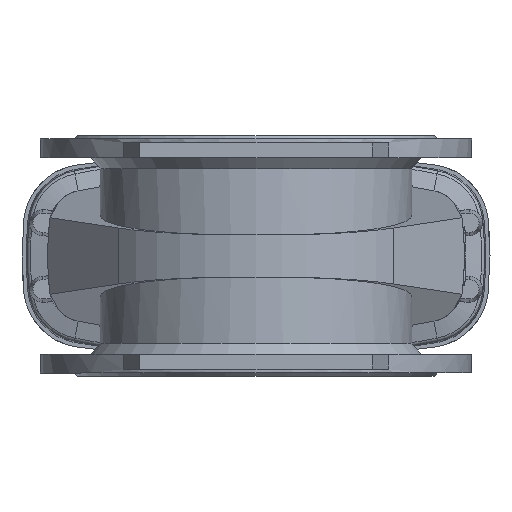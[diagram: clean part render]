
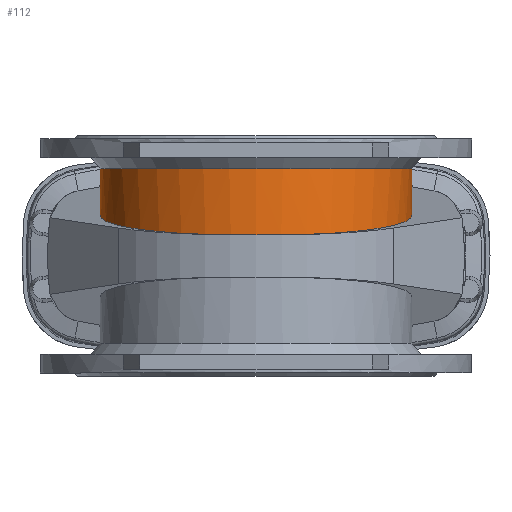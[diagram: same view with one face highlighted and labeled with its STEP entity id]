
A CAD part, front view. The second image highlights one B-rep face of the part: STEP entity #112.
In plain terms, the highlighted cylindrical face has radius 188 mm (diameter 376 mm), a partial arc.
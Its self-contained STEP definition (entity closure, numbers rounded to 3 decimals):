
#112 = ADVANCED_FACE ( 'NONE', ( #11789 ), #11799, .T. ) ;
#2651 = VERTEX_POINT ( 'NONE', #4843 ) ;
#2702 = VERTEX_POINT ( 'NONE', #3043 ) ;
#2712 = VERTEX_POINT ( 'NONE', #3053 ) ;
#2735 = VERTEX_POINT ( 'NONE', #3076 ) ;
#2736 = VERTEX_POINT ( 'NONE', #3077 ) ;
#3043 = CARTESIAN_POINT ( 'NONE',  ( -8., 187.83, 78.452 ) ) ;
#3053 = CARTESIAN_POINT ( 'NONE',  ( 0., -188., 25.774 ) ) ;
#3076 = CARTESIAN_POINT ( 'NONE',  ( 8., 187.83, 78.452 ) ) ;
#3077 = CARTESIAN_POINT ( 'NONE',  ( 8., 187.83, 105.391 ) ) ;
#4843 = CARTESIAN_POINT ( 'NONE',  ( -8., 187.83, 105.391 ) ) ;
#6612 =( BOUNDED_CURVE ( )  B_SPLINE_CURVE ( 3, ( #13349, #13350, #13356, #13357 ),
 .UNSPECIFIED., .F., .F. ) 
 B_SPLINE_CURVE_WITH_KNOTS ( ( 4, 4 ),
 ( 6.158, 9.257 ),
 .UNSPECIFIED. ) 
 CURVE ( )  GEOMETRIC_REPRESENTATION_ITEM ( )  RATIONAL_B_SPLINE_CURVE ( ( 1., 0.348, 0.348, 1. ) ) 
 REPRESENTATION_ITEM ( '' )  );
#6664 =( BOUNDED_CURVE ( )  B_SPLINE_CURVE ( 3, ( #13562, #13570, #13590, #13591 ),
 .UNSPECIFIED., .F., .F. ) 
 B_SPLINE_CURVE_WITH_KNOTS ( ( 4, 4 ),
 ( 6.158, 9.257 ),
 .UNSPECIFIED. ) 
 CURVE ( )  GEOMETRIC_REPRESENTATION_ITEM ( )  RATIONAL_B_SPLINE_CURVE ( ( 1., 0.348, 0.348, 1. ) ) 
 REPRESENTATION_ITEM ( '' )  );
#7694 = ORIENTED_EDGE ( 'NONE', *, *, #12592, .F. ) ;
#7697 = ORIENTED_EDGE ( 'NONE', *, *, #12541, .F. ) ;
#7706 = ORIENTED_EDGE ( 'NONE', *, *, #12542, .T. ) ;
#7730 = ORIENTED_EDGE ( 'NONE', *, *, #12569, .T. ) ;
#7732 = ORIENTED_EDGE ( 'NONE', *, *, #12579, .T. ) ;
#7921 = EDGE_LOOP ( 'NONE', ( #7730, #7732, #7694, #7706, #7697 ) ) ;
#8140 = AXIS2_PLACEMENT_3D ( 'NONE', #11252, #11251, #11247 ) ;
#11052 = AXIS2_PLACEMENT_3D ( 'NONE', #13499, #13500, #13501 ) ;
#11247 = DIRECTION ( 'NONE',  ( -1., 0., 0. ) ) ;
#11251 = DIRECTION ( 'NONE',  ( 0., 0., -1. ) ) ;
#11252 = CARTESIAN_POINT ( 'NONE',  ( 0., 0., 1000. ) ) ;
#11789 = FACE_OUTER_BOUND ( 'NONE', #7921, .T. ) ;
#11799 = CYLINDRICAL_SURFACE ( 'NONE', #8140, 188. ) ;
#12541 = EDGE_CURVE ( 'NONE', #2736, #2735, #14027, .T. ) ;
#12542 = EDGE_CURVE ( 'NONE', #2712, #2735, #6612, .T. ) ;
#12569 = EDGE_CURVE ( 'NONE', #2736, #2651, #14053, .T. ) ;
#12579 = EDGE_CURVE ( 'NONE', #2651, #2702, #14061, .T. ) ;
#12592 = EDGE_CURVE ( 'NONE', #2712, #2702, #6664, .T. ) ;
#13344 = CARTESIAN_POINT ( 'NONE',  ( 8., 187.83, 1000. ) ) ;
#13345 = DIRECTION ( 'NONE',  ( 0., 0., -1. ) ) ;
#13349 = CARTESIAN_POINT ( 'NONE',  ( 0., -188., 25.774 ) ) ;
#13350 = CARTESIAN_POINT ( 'NONE',  ( 360.568, -188., 19.418 ) ) ;
#13356 = CARTESIAN_POINT ( 'NONE',  ( 368.241, 172.486, 69.946 ) ) ;
#13357 = CARTESIAN_POINT ( 'NONE',  ( 8., 187.83, 78.452 ) ) ;
#13499 = CARTESIAN_POINT ( 'NONE',  ( 0., 0., 105.391 ) ) ;
#13500 = DIRECTION ( 'NONE',  ( 0., 0., -1. ) ) ;
#13501 = DIRECTION ( 'NONE',  ( -1., 0., 0. ) ) ;
#13526 = DIRECTION ( 'NONE',  ( 0., 0., -1. ) ) ;
#13527 = CARTESIAN_POINT ( 'NONE',  ( -8., 187.83, 1000. ) ) ;
#13562 = CARTESIAN_POINT ( 'NONE',  ( 0., -188., 25.774 ) ) ;
#13570 = CARTESIAN_POINT ( 'NONE',  ( -360.568, -188., 19.418 ) ) ;
#13590 = CARTESIAN_POINT ( 'NONE',  ( -368.241, 172.486, 69.946 ) ) ;
#13591 = CARTESIAN_POINT ( 'NONE',  ( -8., 187.83, 78.452 ) ) ;
#14027 = LINE ( 'NONE', #13344, #14028 ) ;
#14028 = VECTOR ( 'NONE', #13345, 1000. ) ;
#14053 = CIRCLE ( 'NONE', #11052, 188. ) ;
#14061 = LINE ( 'NONE', #13527, #14063 ) ;
#14063 = VECTOR ( 'NONE', #13526, 1000. ) ;
